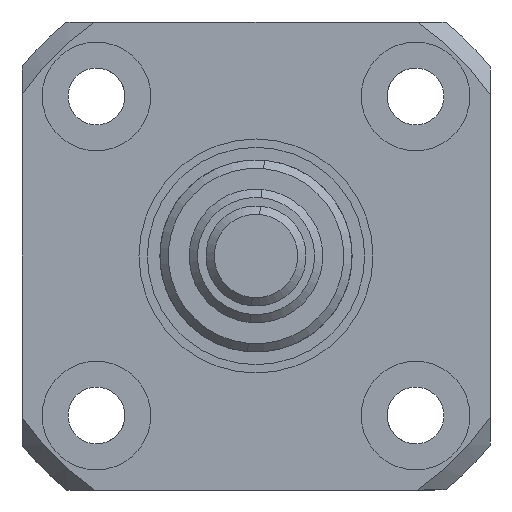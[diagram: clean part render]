
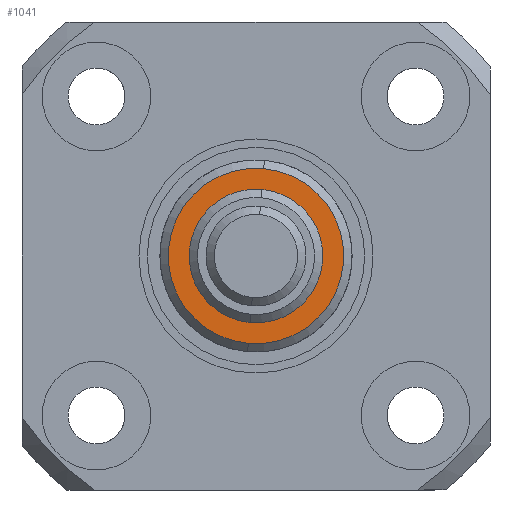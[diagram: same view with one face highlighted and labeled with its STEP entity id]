
A CAD part, left-side view. The second image highlights one B-rep face of the part: STEP entity #1041.
In plain terms, the highlighted planar face has unit normal (-1, 0, 0).
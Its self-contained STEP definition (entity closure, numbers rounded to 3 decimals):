
#37 = CARTESIAN_POINT ( 'NONE',  ( -12., 0., 0. ) ) ;
#60 = AXIS2_PLACEMENT_3D ( 'NONE', #1738, #3824, #2037 ) ;
#135 = DIRECTION ( 'NONE',  ( -1., 0., 0. ) ) ;
#225 = VERTEX_POINT ( 'NONE', #2114 ) ;
#293 = DIRECTION ( 'NONE',  ( 0., 0., 1. ) ) ;
#457 = VERTEX_POINT ( 'NONE', #1376 ) ;
#624 = CIRCLE ( 'NONE', #3821, 4. ) ;
#667 = PLANE ( 'NONE',  #3088 ) ;
#725 = CARTESIAN_POINT ( 'NONE',  ( -12., 0., -5.25 ) ) ;
#970 = DIRECTION ( 'NONE',  ( 0., 0., 1. ) ) ;
#1041 = ADVANCED_FACE ( 'NONE', ( #2598, #3698 ), #667, .T. ) ;
#1115 = EDGE_LOOP ( 'NONE', ( #3306, #3765 ) ) ;
#1376 = CARTESIAN_POINT ( 'NONE',  ( -12., 0., -4. ) ) ;
#1526 = EDGE_CURVE ( 'NONE', #3902, #1913, #1848, .T. ) ;
#1542 = EDGE_LOOP ( 'NONE', ( #3845, #3405 ) ) ;
#1645 = DIRECTION ( 'NONE',  ( -1., 0., 0. ) ) ;
#1664 = AXIS2_PLACEMENT_3D ( 'NONE', #1965, #135, #2282 ) ;
#1738 = CARTESIAN_POINT ( 'NONE',  ( -12., 0., 0. ) ) ;
#1748 = AXIS2_PLACEMENT_3D ( 'NONE', #3438, #1645, #3737 ) ;
#1848 = CIRCLE ( 'NONE', #60, 5.25 ) ;
#1913 = VERTEX_POINT ( 'NONE', #725 ) ;
#1965 = CARTESIAN_POINT ( 'NONE',  ( -12., 0., 0. ) ) ;
#2037 = DIRECTION ( 'NONE',  ( 0., 0., 1. ) ) ;
#2114 = CARTESIAN_POINT ( 'NONE',  ( -12., 0., 4. ) ) ;
#2120 = DIRECTION ( 'NONE',  ( -1., 0., 0. ) ) ;
#2282 = DIRECTION ( 'NONE',  ( 0., 0., 1. ) ) ;
#2352 = EDGE_CURVE ( 'NONE', #225, #457, #624, .T. ) ;
#2598 = FACE_OUTER_BOUND ( 'NONE', #1542, .T. ) ;
#2678 = CIRCLE ( 'NONE', #1664, 4. ) ;
#2777 = DIRECTION ( 'NONE',  ( -1., 0., 0. ) ) ;
#2862 = CIRCLE ( 'NONE', #1748, 5.25 ) ;
#3088 = AXIS2_PLACEMENT_3D ( 'NONE', #37, #2777, #970 ) ;
#3306 = ORIENTED_EDGE ( 'NONE', *, *, #3428, .F. ) ;
#3356 = CARTESIAN_POINT ( 'NONE',  ( -12., 0., 5.25 ) ) ;
#3378 = EDGE_CURVE ( 'NONE', #1913, #3902, #2862, .T. ) ;
#3405 = ORIENTED_EDGE ( 'NONE', *, *, #1526, .T. ) ;
#3428 = EDGE_CURVE ( 'NONE', #457, #225, #2678, .T. ) ;
#3438 = CARTESIAN_POINT ( 'NONE',  ( -12., 0., 0. ) ) ;
#3698 = FACE_BOUND ( 'NONE', #1115, .T. ) ;
#3737 = DIRECTION ( 'NONE',  ( 0., 0., 1. ) ) ;
#3765 = ORIENTED_EDGE ( 'NONE', *, *, #2352, .F. ) ;
#3821 = AXIS2_PLACEMENT_3D ( 'NONE', #3899, #2120, #293 ) ;
#3824 = DIRECTION ( 'NONE',  ( -1., 0., 0. ) ) ;
#3845 = ORIENTED_EDGE ( 'NONE', *, *, #3378, .T. ) ;
#3899 = CARTESIAN_POINT ( 'NONE',  ( -12., 0., 0. ) ) ;
#3902 = VERTEX_POINT ( 'NONE', #3356 ) ;
